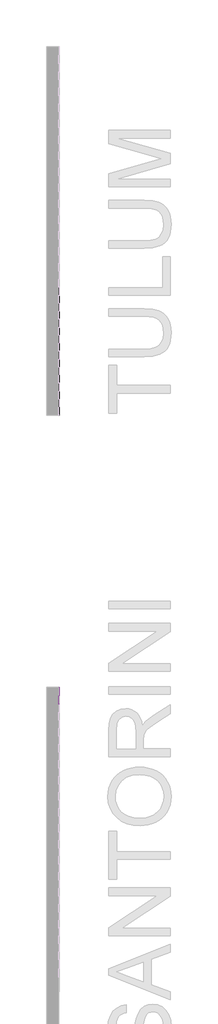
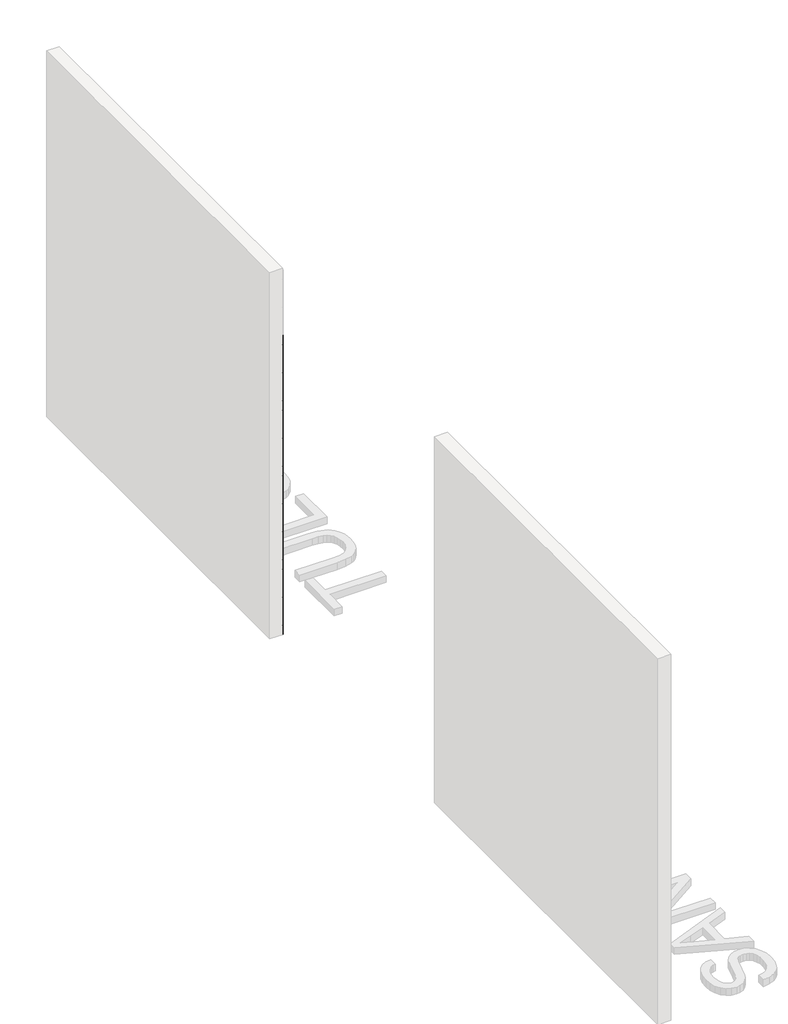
# One storey, part 33 of 45: 147 proxies.
"""IFC4 building model written with IfcOpenShell, lengths in millimetres."""

from ifc_helpers import new_model, si_unit, origin, place, context, project, spatial, transform, mapped, element, save
from components import generic_models_ab0f2c30, generic_models_1527efce

model = new_model("IFC4")

# Units and contexts
model_context = context("Model", 3, world=origin())
ifc_project = project(units=[si_unit("LENGTHUNIT", "METRE", prefix="MILLI")], contexts=[model_context])

# Site, building, storey
site = spatial("IfcSite", under=ifc_project)
building = spatial("IfcBuilding", under=site)
storey = spatial("IfcBuildingStorey", under=building, Name="PORTOBELLO - SHOWROOM", Elevation=0.0)

# Proxies
placement = place(None, origin())
generic_models_shape = generic_models_ab0f2c30(model_context)
element("IfcBuildingElementProxy", 1, Name="PBSHOP - HORIZONTES TULUM 6,5X23 : TULUM", ObjectType="PBSHOP - HORIZONTES TULUM 6,5X23 : TULUM", at=placement, inside=storey, context=model_context, shape_type="MappedRepresentation", body=[
    mapped(generic_models_shape, transform((69111.8826867, 15186.0588567, 34.5), x_axis=(0.0, 0.0, 1.0), y_axis=(0.0, -1.0, 0.0), z_axis=(1.0, 0.0, 0.0))),
])
element("IfcBuildingElementProxy", 2, Name="PBSHOP - HORIZONTES TULUM 6,5X23 : TULUM", ObjectType="PBSHOP - HORIZONTES TULUM 6,5X23 : TULUM", at=placement, inside=storey, context=model_context, shape_type="MappedRepresentation", body=[
    mapped(generic_models_shape, transform((69111.8826867, 15420.0588567, 34.5), x_axis=(0.0, 0.0, 1.0), y_axis=(0.0, -1.0, 0.0), z_axis=(1.0, 0.0, 0.0))),
])
element("IfcBuildingElementProxy", 3, Name="PBSHOP - HORIZONTES TULUM 6,5X23 : TULUM", ObjectType="PBSHOP - HORIZONTES TULUM 6,5X23 : TULUM", at=placement, inside=storey, context=model_context, shape_type="MappedRepresentation", body=[
    mapped(generic_models_shape, transform((69111.8826867, 15654.0588567, 34.5), x_axis=(0.0, 0.0, 1.0), y_axis=(0.0, -1.0, 0.0), z_axis=(1.0, 0.0, 0.0))),
])
element("IfcBuildingElementProxy", 4, Name="PBSHOP - HORIZONTES TULUM 6,5X23 : TULUM", ObjectType="PBSHOP - HORIZONTES TULUM 6,5X23 : TULUM", at=placement, inside=storey, context=model_context, shape_type="MappedRepresentation", body=[
    mapped(generic_models_shape, transform((69111.8826867, 15888.0588567, 34.5), x_axis=(0.0, 0.0, 1.0), y_axis=(0.0, -1.0, 0.0), z_axis=(1.0, 0.0, 0.0))),
])
element("IfcBuildingElementProxy", 5, Name="PBSHOP - HORIZONTES TULUM 6,5X23 : TULUM", ObjectType="PBSHOP - HORIZONTES TULUM 6,5X23 : TULUM", at=placement, inside=storey, context=model_context, shape_type="MappedRepresentation", body=[
    mapped(generic_models_shape, transform((69111.8826867, 15186.0588567, 103.5), x_axis=(0.0, 0.0, 1.0), y_axis=(0.0, -1.0, 0.0), z_axis=(1.0, 0.0, 0.0))),
])
element("IfcBuildingElementProxy", 6, Name="PBSHOP - HORIZONTES TULUM 6,5X23 : TULUM", ObjectType="PBSHOP - HORIZONTES TULUM 6,5X23 : TULUM", at=placement, inside=storey, context=model_context, shape_type="MappedRepresentation", body=[
    mapped(generic_models_shape, transform((69111.8826867, 15420.0588567, 103.5), x_axis=(0.0, 0.0, 1.0), y_axis=(0.0, -1.0, 0.0), z_axis=(1.0, 0.0, 0.0))),
])
element("IfcBuildingElementProxy", 7, Name="PBSHOP - HORIZONTES TULUM 6,5X23 : TULUM", ObjectType="PBSHOP - HORIZONTES TULUM 6,5X23 : TULUM", at=placement, inside=storey, context=model_context, shape_type="MappedRepresentation", body=[
    mapped(generic_models_shape, transform((69111.8826867, 15654.0588567, 103.5), x_axis=(0.0, 0.0, 1.0), y_axis=(0.0, -1.0, 0.0), z_axis=(1.0, 0.0, 0.0))),
])
element("IfcBuildingElementProxy", 8, Name="PBSHOP - HORIZONTES TULUM 6,5X23 : TULUM", ObjectType="PBSHOP - HORIZONTES TULUM 6,5X23 : TULUM", at=placement, inside=storey, context=model_context, shape_type="MappedRepresentation", body=[
    mapped(generic_models_shape, transform((69111.8826867, 15888.0588567, 103.5), x_axis=(0.0, 0.0, 1.0), y_axis=(0.0, -1.0, 0.0), z_axis=(1.0, 0.0, 0.0))),
])
element("IfcBuildingElementProxy", 9, Name="PBSHOP - HORIZONTES TULUM 6,5X23 : TULUM", ObjectType="PBSHOP - HORIZONTES TULUM 6,5X23 : TULUM", at=placement, inside=storey, context=model_context, shape_type="MappedRepresentation", body=[
    mapped(generic_models_shape, transform((69111.8826867, 15186.0588567, 172.5), x_axis=(0.0, 0.0, 1.0), y_axis=(0.0, -1.0, 0.0), z_axis=(1.0, 0.0, 0.0))),
])
element("IfcBuildingElementProxy", 10, Name="PBSHOP - HORIZONTES TULUM 6,5X23 : TULUM", ObjectType="PBSHOP - HORIZONTES TULUM 6,5X23 : TULUM", at=placement, inside=storey, context=model_context, shape_type="MappedRepresentation", body=[
    mapped(generic_models_shape, transform((69111.8826867, 15420.0588567, 172.5), x_axis=(0.0, 0.0, 1.0), y_axis=(0.0, -1.0, 0.0), z_axis=(1.0, 0.0, 0.0))),
])
element("IfcBuildingElementProxy", 11, Name="PBSHOP - HORIZONTES TULUM 6,5X23 : TULUM", ObjectType="PBSHOP - HORIZONTES TULUM 6,5X23 : TULUM", at=placement, inside=storey, context=model_context, shape_type="MappedRepresentation", body=[
    mapped(generic_models_shape, transform((69111.8826867, 15654.0588567, 172.5), x_axis=(0.0, 0.0, 1.0), y_axis=(0.0, -1.0, 0.0), z_axis=(1.0, 0.0, 0.0))),
])
element("IfcBuildingElementProxy", 12, Name="PBSHOP - HORIZONTES TULUM 6,5X23 : TULUM", ObjectType="PBSHOP - HORIZONTES TULUM 6,5X23 : TULUM", at=placement, inside=storey, context=model_context, shape_type="MappedRepresentation", body=[
    mapped(generic_models_shape, transform((69111.8826867, 15888.0588567, 172.5), x_axis=(0.0, 0.0, 1.0), y_axis=(0.0, -1.0, 0.0), z_axis=(1.0, 0.0, 0.0))),
])
element("IfcBuildingElementProxy", 13, Name="PBSHOP - HORIZONTES TULUM 6,5X23 : TULUM", ObjectType="PBSHOP - HORIZONTES TULUM 6,5X23 : TULUM", at=placement, inside=storey, context=model_context, shape_type="MappedRepresentation", body=[
    mapped(generic_models_shape, transform((69111.8826867, 15186.0588567, 241.5), x_axis=(0.0, 0.0, 1.0), y_axis=(0.0, -1.0, 0.0), z_axis=(1.0, 0.0, 0.0))),
])
element("IfcBuildingElementProxy", 14, Name="PBSHOP - HORIZONTES TULUM 6,5X23 : TULUM", ObjectType="PBSHOP - HORIZONTES TULUM 6,5X23 : TULUM", at=placement, inside=storey, context=model_context, shape_type="MappedRepresentation", body=[
    mapped(generic_models_shape, transform((69111.8826867, 15420.0588567, 241.5), x_axis=(0.0, 0.0, 1.0), y_axis=(0.0, -1.0, 0.0), z_axis=(1.0, 0.0, 0.0))),
])
element("IfcBuildingElementProxy", 15, Name="PBSHOP - HORIZONTES TULUM 6,5X23 : TULUM", ObjectType="PBSHOP - HORIZONTES TULUM 6,5X23 : TULUM", at=placement, inside=storey, context=model_context, shape_type="MappedRepresentation", body=[
    mapped(generic_models_shape, transform((69111.8826867, 15654.0588567, 241.5), x_axis=(0.0, 0.0, 1.0), y_axis=(0.0, -1.0, 0.0), z_axis=(1.0, 0.0, 0.0))),
])
element("IfcBuildingElementProxy", 16, Name="PBSHOP - HORIZONTES TULUM 6,5X23 : TULUM", ObjectType="PBSHOP - HORIZONTES TULUM 6,5X23 : TULUM", at=placement, inside=storey, context=model_context, shape_type="MappedRepresentation", body=[
    mapped(generic_models_shape, transform((69111.8826867, 15888.0588567, 241.5), x_axis=(0.0, 0.0, 1.0), y_axis=(0.0, -1.0, 0.0), z_axis=(1.0, 0.0, 0.0))),
])
element("IfcBuildingElementProxy", 17, Name="PBSHOP - HORIZONTES TULUM 6,5X23 : TULUM", ObjectType="PBSHOP - HORIZONTES TULUM 6,5X23 : TULUM", at=placement, inside=storey, context=model_context, shape_type="MappedRepresentation", body=[
    mapped(generic_models_shape, transform((69111.8826867, 15186.0588567, 310.5), x_axis=(0.0, 0.0, 1.0), y_axis=(0.0, -1.0, 0.0), z_axis=(1.0, 0.0, 0.0))),
])
element("IfcBuildingElementProxy", 18, Name="PBSHOP - HORIZONTES TULUM 6,5X23 : TULUM", ObjectType="PBSHOP - HORIZONTES TULUM 6,5X23 : TULUM", at=placement, inside=storey, context=model_context, shape_type="MappedRepresentation", body=[
    mapped(generic_models_shape, transform((69111.8826867, 15420.0588567, 310.5), x_axis=(0.0, 0.0, 1.0), y_axis=(0.0, -1.0, 0.0), z_axis=(1.0, 0.0, 0.0))),
])
element("IfcBuildingElementProxy", 19, Name="PBSHOP - HORIZONTES TULUM 6,5X23 : TULUM", ObjectType="PBSHOP - HORIZONTES TULUM 6,5X23 : TULUM", at=placement, inside=storey, context=model_context, shape_type="MappedRepresentation", body=[
    mapped(generic_models_shape, transform((69111.8826867, 15654.0588567, 310.5), x_axis=(0.0, 0.0, 1.0), y_axis=(0.0, -1.0, 0.0), z_axis=(1.0, 0.0, 0.0))),
])
element("IfcBuildingElementProxy", 20, Name="PBSHOP - HORIZONTES TULUM 6,5X23 : TULUM", ObjectType="PBSHOP - HORIZONTES TULUM 6,5X23 : TULUM", at=placement, inside=storey, context=model_context, shape_type="MappedRepresentation", body=[
    mapped(generic_models_shape, transform((69111.8826867, 15888.0588567, 310.5), x_axis=(0.0, 0.0, 1.0), y_axis=(0.0, -1.0, 0.0), z_axis=(1.0, 0.0, 0.0))),
])
element("IfcBuildingElementProxy", 21, Name="PBSHOP - HORIZONTES TULUM 6,5X23 : TULUM", ObjectType="PBSHOP - HORIZONTES TULUM 6,5X23 : TULUM", at=placement, inside=storey, context=model_context, shape_type="MappedRepresentation", body=[
    mapped(generic_models_shape, transform((69111.8826867, 15186.0588567, 379.5), x_axis=(0.0, 0.0, 1.0), y_axis=(0.0, -1.0, 0.0), z_axis=(1.0, 0.0, 0.0))),
])
element("IfcBuildingElementProxy", 22, Name="PBSHOP - HORIZONTES TULUM 6,5X23 : TULUM", ObjectType="PBSHOP - HORIZONTES TULUM 6,5X23 : TULUM", at=placement, inside=storey, context=model_context, shape_type="MappedRepresentation", body=[
    mapped(generic_models_shape, transform((69111.8826867, 15420.0588567, 379.5), x_axis=(0.0, 0.0, 1.0), y_axis=(0.0, -1.0, 0.0), z_axis=(1.0, 0.0, 0.0))),
])
element("IfcBuildingElementProxy", 23, Name="PBSHOP - HORIZONTES TULUM 6,5X23 : TULUM", ObjectType="PBSHOP - HORIZONTES TULUM 6,5X23 : TULUM", at=placement, inside=storey, context=model_context, shape_type="MappedRepresentation", body=[
    mapped(generic_models_shape, transform((69111.8826867, 15654.0588567, 379.5), x_axis=(0.0, 0.0, 1.0), y_axis=(0.0, -1.0, 0.0), z_axis=(1.0, 0.0, 0.0))),
])
element("IfcBuildingElementProxy", 24, Name="PBSHOP - HORIZONTES TULUM 6,5X23 : TULUM", ObjectType="PBSHOP - HORIZONTES TULUM 6,5X23 : TULUM", at=placement, inside=storey, context=model_context, shape_type="MappedRepresentation", body=[
    mapped(generic_models_shape, transform((69111.8826867, 15888.0588567, 379.5), x_axis=(0.0, 0.0, 1.0), y_axis=(0.0, -1.0, 0.0), z_axis=(1.0, 0.0, 0.0))),
])
element("IfcBuildingElementProxy", 25, Name="PBSHOP - HORIZONTES TULUM 6,5X23 : TULUM", ObjectType="PBSHOP - HORIZONTES TULUM 6,5X23 : TULUM", at=placement, inside=storey, context=model_context, shape_type="MappedRepresentation", body=[
    mapped(generic_models_shape, transform((69111.8826867, 15186.0588567, 448.5), x_axis=(0.0, 0.0, 1.0), y_axis=(0.0, -1.0, 0.0), z_axis=(1.0, 0.0, 0.0))),
])
element("IfcBuildingElementProxy", 26, Name="PBSHOP - HORIZONTES TULUM 6,5X23 : TULUM", ObjectType="PBSHOP - HORIZONTES TULUM 6,5X23 : TULUM", at=placement, inside=storey, context=model_context, shape_type="MappedRepresentation", body=[
    mapped(generic_models_shape, transform((69111.8826867, 15420.0588567, 448.5), x_axis=(0.0, 0.0, 1.0), y_axis=(0.0, -1.0, 0.0), z_axis=(1.0, 0.0, 0.0))),
])
element("IfcBuildingElementProxy", 27, Name="PBSHOP - HORIZONTES TULUM 6,5X23 : TULUM", ObjectType="PBSHOP - HORIZONTES TULUM 6,5X23 : TULUM", at=placement, inside=storey, context=model_context, shape_type="MappedRepresentation", body=[
    mapped(generic_models_shape, transform((69111.8826867, 15654.0588567, 448.5), x_axis=(0.0, 0.0, 1.0), y_axis=(0.0, -1.0, 0.0), z_axis=(1.0, 0.0, 0.0))),
])
element("IfcBuildingElementProxy", 28, Name="PBSHOP - HORIZONTES TULUM 6,5X23 : TULUM", ObjectType="PBSHOP - HORIZONTES TULUM 6,5X23 : TULUM", at=placement, inside=storey, context=model_context, shape_type="MappedRepresentation", body=[
    mapped(generic_models_shape, transform((69111.8826867, 15888.0588567, 448.5), x_axis=(0.0, 0.0, 1.0), y_axis=(0.0, -1.0, 0.0), z_axis=(1.0, 0.0, 0.0))),
])
element("IfcBuildingElementProxy", 29, Name="PBSHOP - HORIZONTES TULUM 6,5X23 : TULUM", ObjectType="PBSHOP - HORIZONTES TULUM 6,5X23 : TULUM", at=placement, inside=storey, context=model_context, shape_type="MappedRepresentation", body=[
    mapped(generic_models_shape, transform((69111.8826867, 15186.0588567, 517.5), x_axis=(0.0, 0.0, 1.0), y_axis=(0.0, -1.0, 0.0), z_axis=(1.0, 0.0, 0.0))),
])
element("IfcBuildingElementProxy", 30, Name="PBSHOP - HORIZONTES TULUM 6,5X23 : TULUM", ObjectType="PBSHOP - HORIZONTES TULUM 6,5X23 : TULUM", at=placement, inside=storey, context=model_context, shape_type="MappedRepresentation", body=[
    mapped(generic_models_shape, transform((69111.8826867, 15420.0588567, 517.5), x_axis=(0.0, 0.0, 1.0), y_axis=(0.0, -1.0, 0.0), z_axis=(1.0, 0.0, 0.0))),
])
element("IfcBuildingElementProxy", 31, Name="PBSHOP - HORIZONTES TULUM 6,5X23 : TULUM", ObjectType="PBSHOP - HORIZONTES TULUM 6,5X23 : TULUM", at=placement, inside=storey, context=model_context, shape_type="MappedRepresentation", body=[
    mapped(generic_models_shape, transform((69111.8826867, 15654.0588567, 517.5), x_axis=(0.0, 0.0, 1.0), y_axis=(0.0, -1.0, 0.0), z_axis=(1.0, 0.0, 0.0))),
])
element("IfcBuildingElementProxy", 32, Name="PBSHOP - HORIZONTES TULUM 6,5X23 : TULUM", ObjectType="PBSHOP - HORIZONTES TULUM 6,5X23 : TULUM", at=placement, inside=storey, context=model_context, shape_type="MappedRepresentation", body=[
    mapped(generic_models_shape, transform((69111.8826867, 15888.0588567, 517.5), x_axis=(0.0, 0.0, 1.0), y_axis=(0.0, -1.0, 0.0), z_axis=(1.0, 0.0, 0.0))),
])
element("IfcBuildingElementProxy", 33, Name="PBSHOP - HORIZONTES TULUM 6,5X23 : TULUM", ObjectType="PBSHOP - HORIZONTES TULUM 6,5X23 : TULUM", at=placement, inside=storey, context=model_context, shape_type="MappedRepresentation", body=[
    mapped(generic_models_shape, transform((69111.8826867, 15186.0588567, 586.5), x_axis=(0.0, 0.0, 1.0), y_axis=(0.0, -1.0, 0.0), z_axis=(1.0, 0.0, 0.0))),
])
element("IfcBuildingElementProxy", 34, Name="PBSHOP - HORIZONTES TULUM 6,5X23 : TULUM", ObjectType="PBSHOP - HORIZONTES TULUM 6,5X23 : TULUM", at=placement, inside=storey, context=model_context, shape_type="MappedRepresentation", body=[
    mapped(generic_models_shape, transform((69111.8826867, 15420.0588567, 586.5), x_axis=(0.0, 0.0, 1.0), y_axis=(0.0, -1.0, 0.0), z_axis=(1.0, 0.0, 0.0))),
])
element("IfcBuildingElementProxy", 35, Name="PBSHOP - HORIZONTES TULUM 6,5X23 : TULUM", ObjectType="PBSHOP - HORIZONTES TULUM 6,5X23 : TULUM", at=placement, inside=storey, context=model_context, shape_type="MappedRepresentation", body=[
    mapped(generic_models_shape, transform((69111.8826867, 15654.0588567, 586.5), x_axis=(0.0, 0.0, 1.0), y_axis=(0.0, -1.0, 0.0), z_axis=(1.0, 0.0, 0.0))),
])
element("IfcBuildingElementProxy", 36, Name="PBSHOP - HORIZONTES TULUM 6,5X23 : TULUM", ObjectType="PBSHOP - HORIZONTES TULUM 6,5X23 : TULUM", at=placement, inside=storey, context=model_context, shape_type="MappedRepresentation", body=[
    mapped(generic_models_shape, transform((69111.8826867, 15888.0588567, 586.5), x_axis=(0.0, 0.0, 1.0), y_axis=(0.0, -1.0, 0.0), z_axis=(1.0, 0.0, 0.0))),
])
element("IfcBuildingElementProxy", 37, Name="PBSHOP - HORIZONTES TULUM 6,5X23 : TULUM", ObjectType="PBSHOP - HORIZONTES TULUM 6,5X23 : TULUM", at=placement, inside=storey, context=model_context, shape_type="MappedRepresentation", body=[
    mapped(generic_models_shape, transform((69111.8826867, 15186.0588567, 655.5), x_axis=(0.0, 0.0, 1.0), y_axis=(0.0, -1.0, 0.0), z_axis=(1.0, 0.0, 0.0))),
])
element("IfcBuildingElementProxy", 38, Name="PBSHOP - HORIZONTES TULUM 6,5X23 : TULUM", ObjectType="PBSHOP - HORIZONTES TULUM 6,5X23 : TULUM", at=placement, inside=storey, context=model_context, shape_type="MappedRepresentation", body=[
    mapped(generic_models_shape, transform((69111.8826867, 15420.0588567, 655.5), x_axis=(0.0, 0.0, 1.0), y_axis=(0.0, -1.0, 0.0), z_axis=(1.0, 0.0, 0.0))),
])
element("IfcBuildingElementProxy", 39, Name="PBSHOP - HORIZONTES TULUM 6,5X23 : TULUM", ObjectType="PBSHOP - HORIZONTES TULUM 6,5X23 : TULUM", at=placement, inside=storey, context=model_context, shape_type="MappedRepresentation", body=[
    mapped(generic_models_shape, transform((69111.8826867, 15654.0588567, 655.5), x_axis=(0.0, 0.0, 1.0), y_axis=(0.0, -1.0, 0.0), z_axis=(1.0, 0.0, 0.0))),
])
element("IfcBuildingElementProxy", 40, Name="PBSHOP - HORIZONTES TULUM 6,5X23 : TULUM", ObjectType="PBSHOP - HORIZONTES TULUM 6,5X23 : TULUM", at=placement, inside=storey, context=model_context, shape_type="MappedRepresentation", body=[
    mapped(generic_models_shape, transform((69111.8826867, 15888.0588567, 655.5), x_axis=(0.0, 0.0, 1.0), y_axis=(0.0, -1.0, 0.0), z_axis=(1.0, 0.0, 0.0))),
])
element("IfcBuildingElementProxy", 41, Name="PBSHOP - HORIZONTES TULUM 6,5X23 : TULUM", ObjectType="PBSHOP - HORIZONTES TULUM 6,5X23 : TULUM", at=placement, inside=storey, context=model_context, shape_type="MappedRepresentation", body=[
    mapped(generic_models_shape, transform((69111.8826867, 15186.0588567, 724.5), x_axis=(0.0, 0.0, 1.0), y_axis=(0.0, -1.0, 0.0), z_axis=(1.0, 0.0, 0.0))),
])
element("IfcBuildingElementProxy", 42, Name="PBSHOP - HORIZONTES TULUM 6,5X23 : TULUM", ObjectType="PBSHOP - HORIZONTES TULUM 6,5X23 : TULUM", at=placement, inside=storey, context=model_context, shape_type="MappedRepresentation", body=[
    mapped(generic_models_shape, transform((69111.8826867, 15420.0588567, 724.5), x_axis=(0.0, 0.0, 1.0), y_axis=(0.0, -1.0, 0.0), z_axis=(1.0, 0.0, 0.0))),
])
element("IfcBuildingElementProxy", 43, Name="PBSHOP - HORIZONTES TULUM 6,5X23 : TULUM", ObjectType="PBSHOP - HORIZONTES TULUM 6,5X23 : TULUM", at=placement, inside=storey, context=model_context, shape_type="MappedRepresentation", body=[
    mapped(generic_models_shape, transform((69111.8826867, 15654.0588567, 724.5), x_axis=(0.0, 0.0, 1.0), y_axis=(0.0, -1.0, 0.0), z_axis=(1.0, 0.0, 0.0))),
])
element("IfcBuildingElementProxy", 44, Name="PBSHOP - HORIZONTES TULUM 6,5X23 : TULUM", ObjectType="PBSHOP - HORIZONTES TULUM 6,5X23 : TULUM", at=placement, inside=storey, context=model_context, shape_type="MappedRepresentation", body=[
    mapped(generic_models_shape, transform((69111.8826867, 15888.0588567, 724.5), x_axis=(0.0, 0.0, 1.0), y_axis=(0.0, -1.0, 0.0), z_axis=(1.0, 0.0, 0.0))),
])
element("IfcBuildingElementProxy", 45, Name="PBSHOP - HORIZONTES TULUM 6,5X23 : TULUM", ObjectType="PBSHOP - HORIZONTES TULUM 6,5X23 : TULUM", at=placement, inside=storey, context=model_context, shape_type="MappedRepresentation", body=[
    mapped(generic_models_shape, transform((69111.8826867, 15186.0588567, 793.5), x_axis=(0.0, 0.0, 1.0), y_axis=(0.0, -1.0, 0.0), z_axis=(1.0, 0.0, 0.0))),
])
element("IfcBuildingElementProxy", 46, Name="PBSHOP - HORIZONTES TULUM 6,5X23 : TULUM", ObjectType="PBSHOP - HORIZONTES TULUM 6,5X23 : TULUM", at=placement, inside=storey, context=model_context, shape_type="MappedRepresentation", body=[
    mapped(generic_models_shape, transform((69111.8826867, 15420.0588567, 793.5), x_axis=(0.0, 0.0, 1.0), y_axis=(0.0, -1.0, 0.0), z_axis=(1.0, 0.0, 0.0))),
])
element("IfcBuildingElementProxy", 47, Name="PBSHOP - HORIZONTES TULUM 6,5X23 : TULUM", ObjectType="PBSHOP - HORIZONTES TULUM 6,5X23 : TULUM", at=placement, inside=storey, context=model_context, shape_type="MappedRepresentation", body=[
    mapped(generic_models_shape, transform((69111.8826867, 15654.0588567, 793.5), x_axis=(0.0, 0.0, 1.0), y_axis=(0.0, -1.0, 0.0), z_axis=(1.0, 0.0, 0.0))),
])
element("IfcBuildingElementProxy", 48, Name="PBSHOP - HORIZONTES TULUM 6,5X23 : TULUM", ObjectType="PBSHOP - HORIZONTES TULUM 6,5X23 : TULUM", at=placement, inside=storey, context=model_context, shape_type="MappedRepresentation", body=[
    mapped(generic_models_shape, transform((69111.8826867, 15888.0588567, 793.5), x_axis=(0.0, 0.0, 1.0), y_axis=(0.0, -1.0, 0.0), z_axis=(1.0, 0.0, 0.0))),
])
element("IfcBuildingElementProxy", 49, Name="PBSHOP - HORIZONTES TULUM 6,5X23 : TULUM", ObjectType="PBSHOP - HORIZONTES TULUM 6,5X23 : TULUM", at=placement, inside=storey, context=model_context, shape_type="MappedRepresentation", body=[
    mapped(generic_models_shape, transform((69111.8826867, 15186.0588567, 862.5), x_axis=(0.0, 0.0, 1.0), y_axis=(0.0, -1.0, 0.0), z_axis=(1.0, 0.0, 0.0))),
])
element("IfcBuildingElementProxy", 50, Name="PBSHOP - HORIZONTES TULUM 6,5X23 : TULUM", ObjectType="PBSHOP - HORIZONTES TULUM 6,5X23 : TULUM", at=placement, inside=storey, context=model_context, shape_type="MappedRepresentation", body=[
    mapped(generic_models_shape, transform((69111.8826867, 15420.0588567, 862.5), x_axis=(0.0, 0.0, 1.0), y_axis=(0.0, -1.0, 0.0), z_axis=(1.0, 0.0, 0.0))),
])
element("IfcBuildingElementProxy", 51, Name="PBSHOP - HORIZONTES TULUM 6,5X23 : TULUM", ObjectType="PBSHOP - HORIZONTES TULUM 6,5X23 : TULUM", at=placement, inside=storey, context=model_context, shape_type="MappedRepresentation", body=[
    mapped(generic_models_shape, transform((69111.8826867, 15654.0588567, 862.5), x_axis=(0.0, 0.0, 1.0), y_axis=(0.0, -1.0, 0.0), z_axis=(1.0, 0.0, 0.0))),
])
element("IfcBuildingElementProxy", 52, Name="PBSHOP - HORIZONTES TULUM 6,5X23 : TULUM", ObjectType="PBSHOP - HORIZONTES TULUM 6,5X23 : TULUM", at=placement, inside=storey, context=model_context, shape_type="MappedRepresentation", body=[
    mapped(generic_models_shape, transform((69111.8826867, 15888.0588567, 862.5), x_axis=(0.0, 0.0, 1.0), y_axis=(0.0, -1.0, 0.0), z_axis=(1.0, 0.0, 0.0))),
])
element("IfcBuildingElementProxy", 53, Name="PBSHOP - HORIZONTES TULUM 6,5X23 : TULUM", ObjectType="PBSHOP - HORIZONTES TULUM 6,5X23 : TULUM", at=placement, inside=storey, context=model_context, shape_type="MappedRepresentation", body=[
    mapped(generic_models_shape, transform((69111.8826867, 15186.0588567, 931.5), x_axis=(0.0, 0.0, 1.0), y_axis=(0.0, -1.0, 0.0), z_axis=(1.0, 0.0, 0.0))),
])
element("IfcBuildingElementProxy", 54, Name="PBSHOP - HORIZONTES TULUM 6,5X23 : TULUM", ObjectType="PBSHOP - HORIZONTES TULUM 6,5X23 : TULUM", at=placement, inside=storey, context=model_context, shape_type="MappedRepresentation", body=[
    mapped(generic_models_shape, transform((69111.8826867, 15420.0588567, 931.5), x_axis=(0.0, 0.0, 1.0), y_axis=(0.0, -1.0, 0.0), z_axis=(1.0, 0.0, 0.0))),
])
element("IfcBuildingElementProxy", 55, Name="PBSHOP - HORIZONTES TULUM 6,5X23 : TULUM", ObjectType="PBSHOP - HORIZONTES TULUM 6,5X23 : TULUM", at=placement, inside=storey, context=model_context, shape_type="MappedRepresentation", body=[
    mapped(generic_models_shape, transform((69111.8826867, 15654.0588567, 931.5), x_axis=(0.0, 0.0, 1.0), y_axis=(0.0, -1.0, 0.0), z_axis=(1.0, 0.0, 0.0))),
])
element("IfcBuildingElementProxy", 56, Name="PBSHOP - HORIZONTES TULUM 6,5X23 : TULUM", ObjectType="PBSHOP - HORIZONTES TULUM 6,5X23 : TULUM", at=placement, inside=storey, context=model_context, shape_type="MappedRepresentation", body=[
    mapped(generic_models_shape, transform((69111.8826867, 15888.0588567, 931.5), x_axis=(0.0, 0.0, 1.0), y_axis=(0.0, -1.0, 0.0), z_axis=(1.0, 0.0, 0.0))),
])
element("IfcBuildingElementProxy", 57, Name="PBSHOP - HORIZONTES TULUM 6,5X23 : TULUM", ObjectType="PBSHOP - HORIZONTES TULUM 6,5X23 : TULUM", at=placement, inside=storey, context=model_context, shape_type="MappedRepresentation", body=[
    mapped(generic_models_shape, transform((69111.8826867, 15186.0588567, 1000.5), x_axis=(0.0, 0.0, 1.0), y_axis=(0.0, -1.0, 0.0), z_axis=(1.0, 0.0, 0.0))),
])
element("IfcBuildingElementProxy", 58, Name="PBSHOP - HORIZONTES TULUM 6,5X23 : TULUM", ObjectType="PBSHOP - HORIZONTES TULUM 6,5X23 : TULUM", at=placement, inside=storey, context=model_context, shape_type="MappedRepresentation", body=[
    mapped(generic_models_shape, transform((69111.8826867, 15420.0588567, 1000.5), x_axis=(0.0, 0.0, 1.0), y_axis=(0.0, -1.0, 0.0), z_axis=(1.0, 0.0, 0.0))),
])
element("IfcBuildingElementProxy", 59, Name="PBSHOP - HORIZONTES TULUM 6,5X23 : TULUM", ObjectType="PBSHOP - HORIZONTES TULUM 6,5X23 : TULUM", at=placement, inside=storey, context=model_context, shape_type="MappedRepresentation", body=[
    mapped(generic_models_shape, transform((69111.8826867, 15654.0588567, 1000.5), x_axis=(0.0, 0.0, 1.0), y_axis=(0.0, -1.0, 0.0), z_axis=(1.0, 0.0, 0.0))),
])
element("IfcBuildingElementProxy", 60, Name="PBSHOP - HORIZONTES TULUM 6,5X23 : TULUM", ObjectType="PBSHOP - HORIZONTES TULUM 6,5X23 : TULUM", at=placement, inside=storey, context=model_context, shape_type="MappedRepresentation", body=[
    mapped(generic_models_shape, transform((69111.8826867, 15888.0588567, 1000.5), x_axis=(0.0, 0.0, 1.0), y_axis=(0.0, -1.0, 0.0), z_axis=(1.0, 0.0, 0.0))),
])
element("IfcBuildingElementProxy", 61, Name="PBSHOP - HORIZONTES TULUM 6,5X23 : TULUM", ObjectType="PBSHOP - HORIZONTES TULUM 6,5X23 : TULUM", at=placement, inside=storey, context=model_context, shape_type="MappedRepresentation", body=[
    mapped(generic_models_shape, transform((69111.8826867, 15186.0588567, 1069.5), x_axis=(0.0, 0.0, 1.0), y_axis=(0.0, -1.0, 0.0), z_axis=(1.0, 0.0, 0.0))),
])
element("IfcBuildingElementProxy", 62, Name="PBSHOP - HORIZONTES TULUM 6,5X23 : TULUM", ObjectType="PBSHOP - HORIZONTES TULUM 6,5X23 : TULUM", at=placement, inside=storey, context=model_context, shape_type="MappedRepresentation", body=[
    mapped(generic_models_shape, transform((69111.8826867, 15420.0588567, 1069.5), x_axis=(0.0, 0.0, 1.0), y_axis=(0.0, -1.0, 0.0), z_axis=(1.0, 0.0, 0.0))),
])
element("IfcBuildingElementProxy", 63, Name="PBSHOP - HORIZONTES TULUM 6,5X23 : TULUM", ObjectType="PBSHOP - HORIZONTES TULUM 6,5X23 : TULUM", at=placement, inside=storey, context=model_context, shape_type="MappedRepresentation", body=[
    mapped(generic_models_shape, transform((69111.8826867, 15654.0588567, 1069.5), x_axis=(0.0, 0.0, 1.0), y_axis=(0.0, -1.0, 0.0), z_axis=(1.0, 0.0, 0.0))),
])
element("IfcBuildingElementProxy", 64, Name="PBSHOP - HORIZONTES TULUM 6,5X23 : TULUM", ObjectType="PBSHOP - HORIZONTES TULUM 6,5X23 : TULUM", at=placement, inside=storey, context=model_context, shape_type="MappedRepresentation", body=[
    mapped(generic_models_shape, transform((69111.8826867, 15888.0588567, 1069.5), x_axis=(0.0, 0.0, 1.0), y_axis=(0.0, -1.0, 0.0), z_axis=(1.0, 0.0, 0.0))),
])
element("IfcBuildingElementProxy", 65, Name="PBSHOP - HORIZONTES TULUM 6,5X23 : TULUM", ObjectType="PBSHOP - HORIZONTES TULUM 6,5X23 : TULUM", at=placement, inside=storey, context=model_context, shape_type="MappedRepresentation", body=[
    mapped(generic_models_shape, transform((69111.8826867, 15186.0588567, 1138.5), x_axis=(0.0, 0.0, 1.0), y_axis=(0.0, -1.0, 0.0), z_axis=(1.0, 0.0, 0.0))),
])
element("IfcBuildingElementProxy", 66, Name="PBSHOP - HORIZONTES TULUM 6,5X23 : TULUM", ObjectType="PBSHOP - HORIZONTES TULUM 6,5X23 : TULUM", at=placement, inside=storey, context=model_context, shape_type="MappedRepresentation", body=[
    mapped(generic_models_shape, transform((69111.8826867, 15420.0588567, 1138.5), x_axis=(0.0, 0.0, 1.0), y_axis=(0.0, -1.0, 0.0), z_axis=(1.0, 0.0, 0.0))),
])
element("IfcBuildingElementProxy", 67, Name="PBSHOP - HORIZONTES TULUM 6,5X23 : TULUM", ObjectType="PBSHOP - HORIZONTES TULUM 6,5X23 : TULUM", at=placement, inside=storey, context=model_context, shape_type="MappedRepresentation", body=[
    mapped(generic_models_shape, transform((69111.8826867, 15654.0588567, 1138.5), x_axis=(0.0, 0.0, 1.0), y_axis=(0.0, -1.0, 0.0), z_axis=(1.0, 0.0, 0.0))),
])
element("IfcBuildingElementProxy", 68, Name="PBSHOP - HORIZONTES TULUM 6,5X23 : TULUM", ObjectType="PBSHOP - HORIZONTES TULUM 6,5X23 : TULUM", at=placement, inside=storey, context=model_context, shape_type="MappedRepresentation", body=[
    mapped(generic_models_shape, transform((69111.8826867, 15888.0588567, 1138.5), x_axis=(0.0, 0.0, 1.0), y_axis=(0.0, -1.0, 0.0), z_axis=(1.0, 0.0, 0.0))),
])
element("IfcBuildingElementProxy", 69, Name="PBSHOP - HORIZONTES TULUM 6,5X23 : TULUM", ObjectType="PBSHOP - HORIZONTES TULUM 6,5X23 : TULUM", at=placement, inside=storey, context=model_context, shape_type="MappedRepresentation", body=[
    mapped(generic_models_shape, transform((69111.8826867, 15186.0588567, 1207.5), x_axis=(0.0, 0.0, 1.0), y_axis=(0.0, -1.0, 0.0), z_axis=(1.0, 0.0, 0.0))),
])
element("IfcBuildingElementProxy", 70, Name="PBSHOP - HORIZONTES TULUM 6,5X23 : TULUM", ObjectType="PBSHOP - HORIZONTES TULUM 6,5X23 : TULUM", at=placement, inside=storey, context=model_context, shape_type="MappedRepresentation", body=[
    mapped(generic_models_shape, transform((69111.8826867, 15420.0588567, 1207.5), x_axis=(0.0, 0.0, 1.0), y_axis=(0.0, -1.0, 0.0), z_axis=(1.0, 0.0, 0.0))),
])
element("IfcBuildingElementProxy", 71, Name="PBSHOP - HORIZONTES TULUM 6,5X23 : TULUM", ObjectType="PBSHOP - HORIZONTES TULUM 6,5X23 : TULUM", at=placement, inside=storey, context=model_context, shape_type="MappedRepresentation", body=[
    mapped(generic_models_shape, transform((69111.8826867, 15654.0588567, 1207.5), x_axis=(0.0, 0.0, 1.0), y_axis=(0.0, -1.0, 0.0), z_axis=(1.0, 0.0, 0.0))),
])
element("IfcBuildingElementProxy", 72, Name="PBSHOP - HORIZONTES TULUM 6,5X23 : TULUM", ObjectType="PBSHOP - HORIZONTES TULUM 6,5X23 : TULUM", at=placement, inside=storey, context=model_context, shape_type="MappedRepresentation", body=[
    mapped(generic_models_shape, transform((69111.8826867, 15888.0588567, 1207.5), x_axis=(0.0, 0.0, 1.0), y_axis=(0.0, -1.0, 0.0), z_axis=(1.0, 0.0, 0.0))),
])
element("IfcBuildingElementProxy", 73, Name="PBSHOP - HORIZONTES TULUM 6,5X23 : TULUM", ObjectType="PBSHOP - HORIZONTES TULUM 6,5X23 : TULUM", at=placement, inside=storey, context=model_context, shape_type="MappedRepresentation", body=[
    mapped(generic_models_shape, transform((69111.8826867, 15186.0588567, 1276.5), x_axis=(0.0, 0.0, 1.0), y_axis=(0.0, -1.0, 0.0), z_axis=(1.0, 0.0, 0.0))),
])
element("IfcBuildingElementProxy", 74, Name="PBSHOP - HORIZONTES TULUM 6,5X23 : TULUM", ObjectType="PBSHOP - HORIZONTES TULUM 6,5X23 : TULUM", at=placement, inside=storey, context=model_context, shape_type="MappedRepresentation", body=[
    mapped(generic_models_shape, transform((69111.8826867, 15420.0588567, 1276.5), x_axis=(0.0, 0.0, 1.0), y_axis=(0.0, -1.0, 0.0), z_axis=(1.0, 0.0, 0.0))),
])
element("IfcBuildingElementProxy", 75, Name="PBSHOP - HORIZONTES TULUM 6,5X23 : TULUM", ObjectType="PBSHOP - HORIZONTES TULUM 6,5X23 : TULUM", at=placement, inside=storey, context=model_context, shape_type="MappedRepresentation", body=[
    mapped(generic_models_shape, transform((69111.8826867, 15654.0588567, 1276.5), x_axis=(0.0, 0.0, 1.0), y_axis=(0.0, -1.0, 0.0), z_axis=(1.0, 0.0, 0.0))),
])
element("IfcBuildingElementProxy", 76, Name="PBSHOP - HORIZONTES TULUM 6,5X23 : TULUM", ObjectType="PBSHOP - HORIZONTES TULUM 6,5X23 : TULUM", at=placement, inside=storey, context=model_context, shape_type="MappedRepresentation", body=[
    mapped(generic_models_shape, transform((69111.8826867, 15888.0588567, 1276.5), x_axis=(0.0, 0.0, 1.0), y_axis=(0.0, -1.0, 0.0), z_axis=(1.0, 0.0, 0.0))),
])
element("IfcBuildingElementProxy", 77, Name="PBSHOP - HORIZONTES TULUM 6,5X23 : TULUM", ObjectType="PBSHOP - HORIZONTES TULUM 6,5X23 : TULUM", at=placement, inside=storey, context=model_context, shape_type="MappedRepresentation", body=[
    mapped(generic_models_shape, transform((69111.8826867, 15186.0588567, 1345.5), x_axis=(0.0, 0.0, 1.0), y_axis=(0.0, -1.0, 0.0), z_axis=(1.0, 0.0, 0.0))),
])
element("IfcBuildingElementProxy", 78, Name="PBSHOP - HORIZONTES TULUM 6,5X23 : TULUM", ObjectType="PBSHOP - HORIZONTES TULUM 6,5X23 : TULUM", at=placement, inside=storey, context=model_context, shape_type="MappedRepresentation", body=[
    mapped(generic_models_shape, transform((69111.8826867, 15420.0588567, 1345.5), x_axis=(0.0, 0.0, 1.0), y_axis=(0.0, -1.0, 0.0), z_axis=(1.0, 0.0, 0.0))),
])
element("IfcBuildingElementProxy", 79, Name="PBSHOP - HORIZONTES TULUM 6,5X23 : TULUM", ObjectType="PBSHOP - HORIZONTES TULUM 6,5X23 : TULUM", at=placement, inside=storey, context=model_context, shape_type="MappedRepresentation", body=[
    mapped(generic_models_shape, transform((69111.8826867, 15654.0588567, 1345.5), x_axis=(0.0, 0.0, 1.0), y_axis=(0.0, -1.0, 0.0), z_axis=(1.0, 0.0, 0.0))),
])
element("IfcBuildingElementProxy", 80, Name="PBSHOP - HORIZONTES TULUM 6,5X23 : TULUM", ObjectType="PBSHOP - HORIZONTES TULUM 6,5X23 : TULUM", at=placement, inside=storey, context=model_context, shape_type="MappedRepresentation", body=[
    mapped(generic_models_shape, transform((69111.8826867, 15888.0588567, 1345.5), x_axis=(0.0, 0.0, 1.0), y_axis=(0.0, -1.0, 0.0), z_axis=(1.0, 0.0, 0.0))),
])
element("IfcBuildingElementProxy", 81, Name="PBSHOP - HORIZONTES TULUM 6,5X23 : TULUM", ObjectType="PBSHOP - HORIZONTES TULUM 6,5X23 : TULUM", at=placement, inside=storey, context=model_context, shape_type="MappedRepresentation", body=[
    mapped(generic_models_shape, transform((69111.8826867, 15186.0588567, 1414.5), x_axis=(0.0, 0.0, 1.0), y_axis=(0.0, -1.0, 0.0), z_axis=(1.0, 0.0, 0.0))),
])
element("IfcBuildingElementProxy", 82, Name="PBSHOP - HORIZONTES TULUM 6,5X23 : TULUM", ObjectType="PBSHOP - HORIZONTES TULUM 6,5X23 : TULUM", at=placement, inside=storey, context=model_context, shape_type="MappedRepresentation", body=[
    mapped(generic_models_shape, transform((69111.8826867, 15420.0588567, 1414.5), x_axis=(0.0, 0.0, 1.0), y_axis=(0.0, -1.0, 0.0), z_axis=(1.0, 0.0, 0.0))),
])
element("IfcBuildingElementProxy", 83, Name="PBSHOP - HORIZONTES TULUM 6,5X23 : TULUM", ObjectType="PBSHOP - HORIZONTES TULUM 6,5X23 : TULUM", at=placement, inside=storey, context=model_context, shape_type="MappedRepresentation", body=[
    mapped(generic_models_shape, transform((69111.8826867, 15654.0588567, 1414.5), x_axis=(0.0, 0.0, 1.0), y_axis=(0.0, -1.0, 0.0), z_axis=(1.0, 0.0, 0.0))),
])
element("IfcBuildingElementProxy", 84, Name="PBSHOP - HORIZONTES TULUM 6,5X23 : TULUM", ObjectType="PBSHOP - HORIZONTES TULUM 6,5X23 : TULUM", at=placement, inside=storey, context=model_context, shape_type="MappedRepresentation", body=[
    mapped(generic_models_shape, transform((69111.8826867, 15888.0588567, 1414.5), x_axis=(0.0, 0.0, 1.0), y_axis=(0.0, -1.0, 0.0), z_axis=(1.0, 0.0, 0.0))),
])
element("IfcBuildingElementProxy", 85, Name="PBSHOP - HORIZONTES TULUM 6,5X23 : TULUM", ObjectType="PBSHOP - HORIZONTES TULUM 6,5X23 : TULUM", at=placement, inside=storey, context=model_context, shape_type="MappedRepresentation", body=[
    mapped(generic_models_shape, transform((69111.8826867, 15186.0588567, 1483.5), x_axis=(0.0, 0.0, 1.0), y_axis=(0.0, -1.0, 0.0), z_axis=(1.0, 0.0, 0.0))),
])
element("IfcBuildingElementProxy", 86, Name="PBSHOP - HORIZONTES TULUM 6,5X23 : TULUM", ObjectType="PBSHOP - HORIZONTES TULUM 6,5X23 : TULUM", at=placement, inside=storey, context=model_context, shape_type="MappedRepresentation", body=[
    mapped(generic_models_shape, transform((69111.8826867, 15420.0588567, 1483.5), x_axis=(0.0, 0.0, 1.0), y_axis=(0.0, -1.0, 0.0), z_axis=(1.0, 0.0, 0.0))),
])
element("IfcBuildingElementProxy", 87, Name="PBSHOP - HORIZONTES TULUM 6,5X23 : TULUM", ObjectType="PBSHOP - HORIZONTES TULUM 6,5X23 : TULUM", at=placement, inside=storey, context=model_context, shape_type="MappedRepresentation", body=[
    mapped(generic_models_shape, transform((69111.8826867, 15654.0588567, 1483.5), x_axis=(0.0, 0.0, 1.0), y_axis=(0.0, -1.0, 0.0), z_axis=(1.0, 0.0, 0.0))),
])
element("IfcBuildingElementProxy", 88, Name="PBSHOP - HORIZONTES TULUM 6,5X23 : TULUM", ObjectType="PBSHOP - HORIZONTES TULUM 6,5X23 : TULUM", at=placement, inside=storey, context=model_context, shape_type="MappedRepresentation", body=[
    mapped(generic_models_shape, transform((69111.8826867, 15888.0588567, 1483.5), x_axis=(0.0, 0.0, 1.0), y_axis=(0.0, -1.0, 0.0), z_axis=(1.0, 0.0, 0.0))),
])
element("IfcBuildingElementProxy", 89, Name="PBSHOP - HORIZONTES TULUM 6,5X23 : TULUM", ObjectType="PBSHOP - HORIZONTES TULUM 6,5X23 : TULUM", at=placement, inside=storey, context=model_context, shape_type="MappedRepresentation", body=[
    mapped(generic_models_shape, transform((69111.8826867, 15186.0588567, 1552.5), x_axis=(0.0, 0.0, 1.0), y_axis=(0.0, -1.0, 0.0), z_axis=(1.0, 0.0, 0.0))),
])
element("IfcBuildingElementProxy", 90, Name="PBSHOP - HORIZONTES TULUM 6,5X23 : TULUM", ObjectType="PBSHOP - HORIZONTES TULUM 6,5X23 : TULUM", at=placement, inside=storey, context=model_context, shape_type="MappedRepresentation", body=[
    mapped(generic_models_shape, transform((69111.8826867, 15420.0588567, 1552.5), x_axis=(0.0, 0.0, 1.0), y_axis=(0.0, -1.0, 0.0), z_axis=(1.0, 0.0, 0.0))),
])
element("IfcBuildingElementProxy", 91, Name="PBSHOP - HORIZONTES TULUM 6,5X23 : TULUM", ObjectType="PBSHOP - HORIZONTES TULUM 6,5X23 : TULUM", at=placement, inside=storey, context=model_context, shape_type="MappedRepresentation", body=[
    mapped(generic_models_shape, transform((69111.8826867, 15654.0588567, 1552.5), x_axis=(0.0, 0.0, 1.0), y_axis=(0.0, -1.0, 0.0), z_axis=(1.0, 0.0, 0.0))),
])
element("IfcBuildingElementProxy", 92, Name="PBSHOP - HORIZONTES TULUM 6,5X23 : TULUM", ObjectType="PBSHOP - HORIZONTES TULUM 6,5X23 : TULUM", at=placement, inside=storey, context=model_context, shape_type="MappedRepresentation", body=[
    mapped(generic_models_shape, transform((69111.8826867, 15888.0588567, 1552.5), x_axis=(0.0, 0.0, 1.0), y_axis=(0.0, -1.0, 0.0), z_axis=(1.0, 0.0, 0.0))),
])
element("IfcBuildingElementProxy", 93, Name="PBSHOP - HORIZONTES TULUM 6,5X23 : TULUM", ObjectType="PBSHOP - HORIZONTES TULUM 6,5X23 : TULUM", at=placement, inside=storey, context=model_context, shape_type="MappedRepresentation", body=[
    mapped(generic_models_shape, transform((69111.8826867, 15186.0588567, 1621.5), x_axis=(0.0, 0.0, 1.0), y_axis=(0.0, -1.0, 0.0), z_axis=(1.0, 0.0, 0.0))),
])
element("IfcBuildingElementProxy", 94, Name="PBSHOP - HORIZONTES TULUM 6,5X23 : TULUM", ObjectType="PBSHOP - HORIZONTES TULUM 6,5X23 : TULUM", at=placement, inside=storey, context=model_context, shape_type="MappedRepresentation", body=[
    mapped(generic_models_shape, transform((69111.8826867, 15420.0588567, 1621.5), x_axis=(0.0, 0.0, 1.0), y_axis=(0.0, -1.0, 0.0), z_axis=(1.0, 0.0, 0.0))),
])
element("IfcBuildingElementProxy", 95, Name="PBSHOP - HORIZONTES TULUM 6,5X23 : TULUM", ObjectType="PBSHOP - HORIZONTES TULUM 6,5X23 : TULUM", at=placement, inside=storey, context=model_context, shape_type="MappedRepresentation", body=[
    mapped(generic_models_shape, transform((69111.8826867, 15654.0588567, 1621.5), x_axis=(0.0, 0.0, 1.0), y_axis=(0.0, -1.0, 0.0), z_axis=(1.0, 0.0, 0.0))),
])
element("IfcBuildingElementProxy", 96, Name="PBSHOP - HORIZONTES TULUM 6,5X23 : TULUM", ObjectType="PBSHOP - HORIZONTES TULUM 6,5X23 : TULUM", at=placement, inside=storey, context=model_context, shape_type="MappedRepresentation", body=[
    mapped(generic_models_shape, transform((69111.8826867, 15888.0588567, 1621.5), x_axis=(0.0, 0.0, 1.0), y_axis=(0.0, -1.0, 0.0), z_axis=(1.0, 0.0, 0.0))),
])
element("IfcBuildingElementProxy", 97, Name="PBSHOP - HORIZONTES TULUM 6,5X23 : TULUM", ObjectType="PBSHOP - HORIZONTES TULUM 6,5X23 : TULUM", at=placement, inside=storey, context=model_context, shape_type="MappedRepresentation", body=[
    mapped(generic_models_shape, transform((69111.8826867, 15186.0588567, 1690.5), x_axis=(0.0, 0.0, 1.0), y_axis=(0.0, -1.0, 0.0), z_axis=(1.0, 0.0, 0.0))),
])
element("IfcBuildingElementProxy", 98, Name="PBSHOP - HORIZONTES TULUM 6,5X23 : TULUM", ObjectType="PBSHOP - HORIZONTES TULUM 6,5X23 : TULUM", at=placement, inside=storey, context=model_context, shape_type="MappedRepresentation", body=[
    mapped(generic_models_shape, transform((69111.8826867, 15420.0588567, 1690.5), x_axis=(0.0, 0.0, 1.0), y_axis=(0.0, -1.0, 0.0), z_axis=(1.0, 0.0, 0.0))),
])
element("IfcBuildingElementProxy", 99, Name="PBSHOP - HORIZONTES TULUM 6,5X23 : TULUM", ObjectType="PBSHOP - HORIZONTES TULUM 6,5X23 : TULUM", at=placement, inside=storey, context=model_context, shape_type="MappedRepresentation", body=[
    mapped(generic_models_shape, transform((69111.8826867, 15654.0588567, 1690.5), x_axis=(0.0, 0.0, 1.0), y_axis=(0.0, -1.0, 0.0), z_axis=(1.0, 0.0, 0.0))),
])
element("IfcBuildingElementProxy", 100, Name="PBSHOP - HORIZONTES TULUM 6,5X23 : TULUM", ObjectType="PBSHOP - HORIZONTES TULUM 6,5X23 : TULUM", at=placement, inside=storey, context=model_context, shape_type="MappedRepresentation", body=[
    mapped(generic_models_shape, transform((69111.8826867, 15888.0588567, 1690.5), x_axis=(0.0, 0.0, 1.0), y_axis=(0.0, -1.0, 0.0), z_axis=(1.0, 0.0, 0.0))),
])
element("IfcBuildingElementProxy", 101, Name="PBSHOP - HORIZONTES TULUM 6,5X23 : TULUM", ObjectType="PBSHOP - HORIZONTES TULUM 6,5X23 : TULUM", at=placement, inside=storey, context=model_context, shape_type="MappedRepresentation", body=[
    mapped(generic_models_shape, transform((69111.8826867, 15186.0588567, 1759.5), x_axis=(0.0, 0.0, 1.0), y_axis=(0.0, -1.0, 0.0), z_axis=(1.0, 0.0, 0.0))),
])
element("IfcBuildingElementProxy", 102, Name="PBSHOP - HORIZONTES TULUM 6,5X23 : TULUM", ObjectType="PBSHOP - HORIZONTES TULUM 6,5X23 : TULUM", at=placement, inside=storey, context=model_context, shape_type="MappedRepresentation", body=[
    mapped(generic_models_shape, transform((69111.8826867, 15420.0588567, 1759.5), x_axis=(0.0, 0.0, 1.0), y_axis=(0.0, -1.0, 0.0), z_axis=(1.0, 0.0, 0.0))),
])
element("IfcBuildingElementProxy", 103, Name="PBSHOP - HORIZONTES TULUM 6,5X23 : TULUM", ObjectType="PBSHOP - HORIZONTES TULUM 6,5X23 : TULUM", at=placement, inside=storey, context=model_context, shape_type="MappedRepresentation", body=[
    mapped(generic_models_shape, transform((69111.8826867, 15654.0588567, 1759.5), x_axis=(0.0, 0.0, 1.0), y_axis=(0.0, -1.0, 0.0), z_axis=(1.0, 0.0, 0.0))),
])
element("IfcBuildingElementProxy", 104, Name="PBSHOP - HORIZONTES TULUM 6,5X23 : TULUM", ObjectType="PBSHOP - HORIZONTES TULUM 6,5X23 : TULUM", at=placement, inside=storey, context=model_context, shape_type="MappedRepresentation", body=[
    mapped(generic_models_shape, transform((69111.8826867, 15888.0588567, 1759.5), x_axis=(0.0, 0.0, 1.0), y_axis=(0.0, -1.0, 0.0), z_axis=(1.0, 0.0, 0.0))),
])
element("IfcBuildingElementProxy", 105, Name="PBSHOP - HORIZONTES TULUM 6,5X23 : TULUM", ObjectType="PBSHOP - HORIZONTES TULUM 6,5X23 : TULUM", at=placement, inside=storey, context=model_context, shape_type="MappedRepresentation", body=[
    mapped(generic_models_shape, transform((69111.8826867, 15186.0588567, 1828.5), x_axis=(0.0, 0.0, 1.0), y_axis=(0.0, -1.0, 0.0), z_axis=(1.0, 0.0, 0.0))),
])
element("IfcBuildingElementProxy", 106, Name="PBSHOP - HORIZONTES TULUM 6,5X23 : TULUM", ObjectType="PBSHOP - HORIZONTES TULUM 6,5X23 : TULUM", at=placement, inside=storey, context=model_context, shape_type="MappedRepresentation", body=[
    mapped(generic_models_shape, transform((69111.8826867, 15420.0588567, 1828.5), x_axis=(0.0, 0.0, 1.0), y_axis=(0.0, -1.0, 0.0), z_axis=(1.0, 0.0, 0.0))),
])
element("IfcBuildingElementProxy", 107, Name="PBSHOP - HORIZONTES TULUM 6,5X23 : TULUM", ObjectType="PBSHOP - HORIZONTES TULUM 6,5X23 : TULUM", at=placement, inside=storey, context=model_context, shape_type="MappedRepresentation", body=[
    mapped(generic_models_shape, transform((69111.8826867, 15654.0588567, 1828.5), x_axis=(0.0, 0.0, 1.0), y_axis=(0.0, -1.0, 0.0), z_axis=(1.0, 0.0, 0.0))),
])
element("IfcBuildingElementProxy", 108, Name="PBSHOP - HORIZONTES TULUM 6,5X23 : TULUM", ObjectType="PBSHOP - HORIZONTES TULUM 6,5X23 : TULUM", at=placement, inside=storey, context=model_context, shape_type="MappedRepresentation", body=[
    mapped(generic_models_shape, transform((69111.8826867, 15888.0588567, 1828.5), x_axis=(0.0, 0.0, 1.0), y_axis=(0.0, -1.0, 0.0), z_axis=(1.0, 0.0, 0.0))),
])
element("IfcBuildingElementProxy", 109, Name="PBSHOP - HORIZONTES TULUM 6,5X23 : TULUM", ObjectType="PBSHOP - HORIZONTES TULUM 6,5X23 : TULUM", at=placement, inside=storey, context=model_context, shape_type="MappedRepresentation", body=[
    mapped(generic_models_shape, transform((69111.8826867, 15186.0588567, 1897.5), x_axis=(0.0, 0.0, 1.0), y_axis=(0.0, -1.0, 0.0), z_axis=(1.0, 0.0, 0.0))),
])
element("IfcBuildingElementProxy", 110, Name="PBSHOP - HORIZONTES TULUM 6,5X23 : TULUM", ObjectType="PBSHOP - HORIZONTES TULUM 6,5X23 : TULUM", at=placement, inside=storey, context=model_context, shape_type="MappedRepresentation", body=[
    mapped(generic_models_shape, transform((69111.8826867, 15420.0588567, 1897.5), x_axis=(0.0, 0.0, 1.0), y_axis=(0.0, -1.0, 0.0), z_axis=(1.0, 0.0, 0.0))),
])
element("IfcBuildingElementProxy", 111, Name="PBSHOP - HORIZONTES TULUM 6,5X23 : TULUM", ObjectType="PBSHOP - HORIZONTES TULUM 6,5X23 : TULUM", at=placement, inside=storey, context=model_context, shape_type="MappedRepresentation", body=[
    mapped(generic_models_shape, transform((69111.8826867, 15654.0588567, 1897.5), x_axis=(0.0, 0.0, 1.0), y_axis=(0.0, -1.0, 0.0), z_axis=(1.0, 0.0, 0.0))),
])
element("IfcBuildingElementProxy", 112, Name="PBSHOP - HORIZONTES TULUM 6,5X23 : TULUM", ObjectType="PBSHOP - HORIZONTES TULUM 6,5X23 : TULUM", at=placement, inside=storey, context=model_context, shape_type="MappedRepresentation", body=[
    mapped(generic_models_shape, transform((69111.8826867, 15888.0588567, 1897.5), x_axis=(0.0, 0.0, 1.0), y_axis=(0.0, -1.0, 0.0), z_axis=(1.0, 0.0, 0.0))),
])
element("IfcBuildingElementProxy", 113, Name="PBSHOP - HORIZONTES TULUM 6,5X23 : TULUM", ObjectType="PBSHOP - HORIZONTES TULUM 6,5X23 : TULUM", at=placement, inside=storey, context=model_context, shape_type="MappedRepresentation", body=[
    mapped(generic_models_shape, transform((69111.8826867, 15186.0588567, 1966.5), x_axis=(0.0, 0.0, 1.0), y_axis=(0.0, -1.0, 0.0), z_axis=(1.0, 0.0, 0.0))),
])
element("IfcBuildingElementProxy", 114, Name="PBSHOP - HORIZONTES TULUM 6,5X23 : TULUM", ObjectType="PBSHOP - HORIZONTES TULUM 6,5X23 : TULUM", at=placement, inside=storey, context=model_context, shape_type="MappedRepresentation", body=[
    mapped(generic_models_shape, transform((69111.8826867, 15420.0588567, 1966.5), x_axis=(0.0, 0.0, 1.0), y_axis=(0.0, -1.0, 0.0), z_axis=(1.0, 0.0, 0.0))),
])
element("IfcBuildingElementProxy", 115, Name="PBSHOP - HORIZONTES TULUM 6,5X23 : TULUM", ObjectType="PBSHOP - HORIZONTES TULUM 6,5X23 : TULUM", at=placement, inside=storey, context=model_context, shape_type="MappedRepresentation", body=[
    mapped(generic_models_shape, transform((69111.8826867, 15654.0588567, 1966.5), x_axis=(0.0, 0.0, 1.0), y_axis=(0.0, -1.0, 0.0), z_axis=(1.0, 0.0, 0.0))),
])
element("IfcBuildingElementProxy", 116, Name="PBSHOP - HORIZONTES TULUM 6,5X23 : TULUM", ObjectType="PBSHOP - HORIZONTES TULUM 6,5X23 : TULUM", at=placement, inside=storey, context=model_context, shape_type="MappedRepresentation", body=[
    mapped(generic_models_shape, transform((69111.8826867, 15888.0588567, 1966.5), x_axis=(0.0, 0.0, 1.0), y_axis=(0.0, -1.0, 0.0), z_axis=(1.0, 0.0, 0.0))),
])
element("IfcBuildingElementProxy", 117, Name="PBSHOP - HORIZONTES TULUM 6,5X23 : TULUM", ObjectType="PBSHOP - HORIZONTES TULUM 6,5X23 : TULUM", at=placement, inside=storey, context=model_context, shape_type="MappedRepresentation", body=[
    mapped(generic_models_shape, transform((69111.8826867, 15186.0588567, 2035.5), x_axis=(0.0, 0.0, 1.0), y_axis=(0.0, -1.0, 0.0), z_axis=(1.0, 0.0, 0.0))),
])
element("IfcBuildingElementProxy", 118, Name="PBSHOP - HORIZONTES TULUM 6,5X23 : TULUM", ObjectType="PBSHOP - HORIZONTES TULUM 6,5X23 : TULUM", at=placement, inside=storey, context=model_context, shape_type="MappedRepresentation", body=[
    mapped(generic_models_shape, transform((69111.8826867, 15420.0588567, 2035.5), x_axis=(0.0, 0.0, 1.0), y_axis=(0.0, -1.0, 0.0), z_axis=(1.0, 0.0, 0.0))),
])
element("IfcBuildingElementProxy", 119, Name="PBSHOP - HORIZONTES TULUM 6,5X23 : TULUM", ObjectType="PBSHOP - HORIZONTES TULUM 6,5X23 : TULUM", at=placement, inside=storey, context=model_context, shape_type="MappedRepresentation", body=[
    mapped(generic_models_shape, transform((69111.8826867, 15654.0588567, 2035.5), x_axis=(0.0, 0.0, 1.0), y_axis=(0.0, -1.0, 0.0), z_axis=(1.0, 0.0, 0.0))),
])
element("IfcBuildingElementProxy", 120, Name="PBSHOP - HORIZONTES TULUM 6,5X23 : TULUM", ObjectType="PBSHOP - HORIZONTES TULUM 6,5X23 : TULUM", at=placement, inside=storey, context=model_context, shape_type="MappedRepresentation", body=[
    mapped(generic_models_shape, transform((69111.8826867, 15888.0588567, 2035.5), x_axis=(0.0, 0.0, 1.0), y_axis=(0.0, -1.0, 0.0), z_axis=(1.0, 0.0, 0.0))),
])
element("IfcBuildingElementProxy", 121, Name="PBSHOP - HORIZONTES TULUM 6,5X23 : TULUM", ObjectType="PBSHOP - HORIZONTES TULUM 6,5X23 : TULUM", at=placement, inside=storey, context=model_context, shape_type="MappedRepresentation", body=[
    mapped(generic_models_shape, transform((69111.8826867, 15186.0588567, 2104.5), x_axis=(0.0, 0.0, 1.0), y_axis=(0.0, -1.0, 0.0), z_axis=(1.0, 0.0, 0.0))),
])
element("IfcBuildingElementProxy", 122, Name="PBSHOP - HORIZONTES TULUM 6,5X23 : TULUM", ObjectType="PBSHOP - HORIZONTES TULUM 6,5X23 : TULUM", at=placement, inside=storey, context=model_context, shape_type="MappedRepresentation", body=[
    mapped(generic_models_shape, transform((69111.8826867, 15420.0588567, 2104.5), x_axis=(0.0, 0.0, 1.0), y_axis=(0.0, -1.0, 0.0), z_axis=(1.0, 0.0, 0.0))),
])
element("IfcBuildingElementProxy", 123, Name="PBSHOP - HORIZONTES TULUM 6,5X23 : TULUM", ObjectType="PBSHOP - HORIZONTES TULUM 6,5X23 : TULUM", at=placement, inside=storey, context=model_context, shape_type="MappedRepresentation", body=[
    mapped(generic_models_shape, transform((69111.8826867, 15654.0588567, 2104.5), x_axis=(0.0, 0.0, 1.0), y_axis=(0.0, -1.0, 0.0), z_axis=(1.0, 0.0, 0.0))),
])
element("IfcBuildingElementProxy", 124, Name="PBSHOP - HORIZONTES TULUM 6,5X23 : TULUM", ObjectType="PBSHOP - HORIZONTES TULUM 6,5X23 : TULUM", at=placement, inside=storey, context=model_context, shape_type="MappedRepresentation", body=[
    mapped(generic_models_shape, transform((69111.8826867, 15888.0588567, 2104.5), x_axis=(0.0, 0.0, 1.0), y_axis=(0.0, -1.0, 0.0), z_axis=(1.0, 0.0, 0.0))),
])
element("IfcBuildingElementProxy", 125, Name="PBSHOP - HORIZONTES TULUM 6,5X23 : TULUM", ObjectType="PBSHOP - HORIZONTES TULUM 6,5X23 : TULUM", at=placement, inside=storey, context=model_context, shape_type="MappedRepresentation", body=[
    mapped(generic_models_shape, transform((69111.8826867, 15186.0588567, 2173.5), x_axis=(0.0, 0.0, 1.0), y_axis=(0.0, -1.0, 0.0), z_axis=(1.0, 0.0, 0.0))),
])
element("IfcBuildingElementProxy", 126, Name="PBSHOP - HORIZONTES TULUM 6,5X23 : TULUM", ObjectType="PBSHOP - HORIZONTES TULUM 6,5X23 : TULUM", at=placement, inside=storey, context=model_context, shape_type="MappedRepresentation", body=[
    mapped(generic_models_shape, transform((69111.8826867, 15420.0588567, 2173.5), x_axis=(0.0, 0.0, 1.0), y_axis=(0.0, -1.0, 0.0), z_axis=(1.0, 0.0, 0.0))),
])
element("IfcBuildingElementProxy", 127, Name="PBSHOP - HORIZONTES TULUM 6,5X23 : TULUM", ObjectType="PBSHOP - HORIZONTES TULUM 6,5X23 : TULUM", at=placement, inside=storey, context=model_context, shape_type="MappedRepresentation", body=[
    mapped(generic_models_shape, transform((69111.8826867, 15654.0588567, 2173.5), x_axis=(0.0, 0.0, 1.0), y_axis=(0.0, -1.0, 0.0), z_axis=(1.0, 0.0, 0.0))),
])
element("IfcBuildingElementProxy", 128, Name="PBSHOP - HORIZONTES TULUM 6,5X23 : TULUM", ObjectType="PBSHOP - HORIZONTES TULUM 6,5X23 : TULUM", at=placement, inside=storey, context=model_context, shape_type="MappedRepresentation", body=[
    mapped(generic_models_shape, transform((69111.8826867, 15888.0588567, 2173.5), x_axis=(0.0, 0.0, 1.0), y_axis=(0.0, -1.0, 0.0), z_axis=(1.0, 0.0, 0.0))),
])
generic_models_2_shape = generic_models_1527efce(model_context)
element("IfcBuildingElementProxy", 129, Name="PBSHOP - HORIZONTES SANTORINI 6,5X23 : SANTORINI", ObjectType="PBSHOP - HORIZONTES SANTORINI 6,5X23 : SANTORINI", at=placement, inside=storey, context=model_context, shape_type="MappedRepresentation", body=[
    mapped(generic_models_2_shape, transform((69111.8826867, 13066.0312463, 1414.5), x_axis=(0.0, 0.0, 1.0), y_axis=(0.0, -1.0, 0.0), z_axis=(1.0, 0.0, 0.0))),
])
element("IfcBuildingElementProxy", 130, Name="PBSHOP - HORIZONTES SANTORINI 6,5X23 : SANTORINI", ObjectType="PBSHOP - HORIZONTES SANTORINI 6,5X23 : SANTORINI", at=placement, inside=storey, context=model_context, shape_type="MappedRepresentation", body=[
    mapped(generic_models_2_shape, transform((69111.8826867, 13066.0312463, 1483.5), x_axis=(0.0, 0.0, 1.0), y_axis=(0.0, -1.0, 0.0), z_axis=(1.0, 0.0, 0.0))),
])
element("IfcBuildingElementProxy", 131, Name="PBSHOP - HORIZONTES SANTORINI 6,5X23 : SANTORINI", ObjectType="PBSHOP - HORIZONTES SANTORINI 6,5X23 : SANTORINI", at=placement, inside=storey, context=model_context, shape_type="MappedRepresentation", body=[
    mapped(generic_models_2_shape, transform((69111.8826867, 13066.0312463, 1552.5), x_axis=(0.0, 0.0, 1.0), y_axis=(0.0, -1.0, 0.0), z_axis=(1.0, 0.0, 0.0))),
])
element("IfcBuildingElementProxy", 132, Name="PBSHOP - HORIZONTES SANTORINI 6,5X23 : SANTORINI", ObjectType="PBSHOP - HORIZONTES SANTORINI 6,5X23 : SANTORINI", at=placement, inside=storey, context=model_context, shape_type="MappedRepresentation", body=[
    mapped(generic_models_2_shape, transform((69111.8826867, 13066.0312463, 1621.5), x_axis=(0.0, 0.0, 1.0), y_axis=(0.0, -1.0, 0.0), z_axis=(1.0, 0.0, 0.0))),
])
element("IfcBuildingElementProxy", 133, Name="PBSHOP - HORIZONTES SANTORINI 6,5X23 : SANTORINI", ObjectType="PBSHOP - HORIZONTES SANTORINI 6,5X23 : SANTORINI", at=placement, inside=storey, context=model_context, shape_type="MappedRepresentation", body=[
    mapped(generic_models_2_shape, transform((69111.8826867, 13066.0312463, 1690.5), x_axis=(0.0, 0.0, 1.0), y_axis=(0.0, -1.0, 0.0), z_axis=(1.0, 0.0, 0.0))),
])
element("IfcBuildingElementProxy", 134, Name="PBSHOP - HORIZONTES SANTORINI 6,5X23 : SANTORINI", ObjectType="PBSHOP - HORIZONTES SANTORINI 6,5X23 : SANTORINI", at=placement, inside=storey, context=model_context, shape_type="MappedRepresentation", body=[
    mapped(generic_models_2_shape, transform((69111.8826867, 13066.0312463, 1759.5), x_axis=(0.0, 0.0, 1.0), y_axis=(0.0, -1.0, 0.0), z_axis=(1.0, 0.0, 0.0))),
])
element("IfcBuildingElementProxy", 135, Name="PBSHOP - HORIZONTES SANTORINI 6,5X23 : SANTORINI", ObjectType="PBSHOP - HORIZONTES SANTORINI 6,5X23 : SANTORINI", at=placement, inside=storey, context=model_context, shape_type="MappedRepresentation", body=[
    mapped(generic_models_2_shape, transform((69111.8826867, 13066.0312463, 1828.5), x_axis=(0.0, 0.0, 1.0), y_axis=(0.0, -1.0, 0.0), z_axis=(1.0, 0.0, 0.0))),
])
element("IfcBuildingElementProxy", 136, Name="PBSHOP - HORIZONTES SANTORINI 6,5X23 : SANTORINI", ObjectType="PBSHOP - HORIZONTES SANTORINI 6,5X23 : SANTORINI", at=placement, inside=storey, context=model_context, shape_type="MappedRepresentation", body=[
    mapped(generic_models_2_shape, transform((69111.8826867, 13066.0312463, 1897.5), x_axis=(0.0, 0.0, 1.0), y_axis=(0.0, -1.0, 0.0), z_axis=(1.0, 0.0, 0.0))),
])
element("IfcBuildingElementProxy", 137, Name="PBSHOP - HORIZONTES SANTORINI 6,5X23 : SANTORINI", ObjectType="PBSHOP - HORIZONTES SANTORINI 6,5X23 : SANTORINI", at=placement, inside=storey, context=model_context, shape_type="MappedRepresentation", body=[
    mapped(generic_models_2_shape, transform((69111.8826867, 13066.0312463, 1966.5), x_axis=(0.0, 0.0, 1.0), y_axis=(0.0, -1.0, 0.0), z_axis=(1.0, 0.0, 0.0))),
])
element("IfcBuildingElementProxy", 138, Name="PBSHOP - HORIZONTES SANTORINI 6,5X23 : SANTORINI", ObjectType="PBSHOP - HORIZONTES SANTORINI 6,5X23 : SANTORINI", at=placement, inside=storey, context=model_context, shape_type="MappedRepresentation", body=[
    mapped(generic_models_2_shape, transform((69111.8826867, 13066.0312463, 2035.5), x_axis=(0.0, 0.0, 1.0), y_axis=(0.0, -1.0, 0.0), z_axis=(1.0, 0.0, 0.0))),
])
element("IfcBuildingElementProxy", 139, Name="PBSHOP - HORIZONTES SANTORINI 6,5X23 : SANTORINI", ObjectType="PBSHOP - HORIZONTES SANTORINI 6,5X23 : SANTORINI", at=placement, inside=storey, context=model_context, shape_type="MappedRepresentation", body=[
    mapped(generic_models_2_shape, transform((69111.8826867, 13066.0312463, 2104.5), x_axis=(0.0, 0.0, 1.0), y_axis=(0.0, -1.0, 0.0), z_axis=(1.0, 0.0, 0.0))),
])
element("IfcBuildingElementProxy", 140, Name="PBSHOP - HORIZONTES SANTORINI 6,5X23 : SANTORINI", ObjectType="PBSHOP - HORIZONTES SANTORINI 6,5X23 : SANTORINI", at=placement, inside=storey, context=model_context, shape_type="MappedRepresentation", body=[
    mapped(generic_models_2_shape, transform((69111.8826867, 13066.0312463, 2173.5), x_axis=(0.0, 0.0, 1.0), y_axis=(0.0, -1.0, 0.0), z_axis=(1.0, 0.0, 0.0))),
])
element("IfcBuildingElementProxy", 141, Name="PBSHOP - HORIZONTES SANTORINI 6,5X23 : SANTORINI", ObjectType="PBSHOP - HORIZONTES SANTORINI 6,5X23 : SANTORINI", at=placement, inside=storey, context=model_context, shape_type="MappedRepresentation", body=[
    mapped(generic_models_2_shape, transform((69111.8826867, 13066.0312463, 2242.5), x_axis=(0.0, 0.0, 1.0), y_axis=(0.0, -1.0, 0.0), z_axis=(1.0, 0.0, 0.0))),
])
element("IfcBuildingElementProxy", 142, Name="PBSHOP - HORIZONTES SANTORINI 6,5X23 : SANTORINI", ObjectType="PBSHOP - HORIZONTES SANTORINI 6,5X23 : SANTORINI", at=placement, inside=storey, context=model_context, shape_type="MappedRepresentation", body=[
    mapped(generic_models_2_shape, transform((69111.8826867, 13066.0312463, 2311.5), x_axis=(0.0, 0.0, 1.0), y_axis=(0.0, -1.0, 0.0), z_axis=(1.0, 0.0, 0.0))),
])
element("IfcBuildingElementProxy", 143, Name="PBSHOP - HORIZONTES SANTORINI 6,5X23 : SANTORINI", ObjectType="PBSHOP - HORIZONTES SANTORINI 6,5X23 : SANTORINI", at=placement, inside=storey, context=model_context, shape_type="MappedRepresentation", body=[
    mapped(generic_models_2_shape, transform((69111.8826867, 13066.0312463, 2380.5), x_axis=(0.0, 0.0, 1.0), y_axis=(0.0, -1.0, 0.0), z_axis=(1.0, 0.0, 0.0))),
])
element("IfcBuildingElementProxy", 144, Name="PBSHOP - HORIZONTES SANTORINI 6,5X23 : SANTORINI", ObjectType="PBSHOP - HORIZONTES SANTORINI 6,5X23 : SANTORINI", at=placement, inside=storey, context=model_context, shape_type="MappedRepresentation", body=[
    mapped(generic_models_2_shape, transform((69111.8826867, 13066.0312463, 2449.5), x_axis=(0.0, 0.0, 1.0), y_axis=(0.0, -1.0, 0.0), z_axis=(1.0, 0.0, 0.0))),
])
element("IfcBuildingElementProxy", 145, Name="PBSHOP - HORIZONTES SANTORINI 6,5X23 : SANTORINI", ObjectType="PBSHOP - HORIZONTES SANTORINI 6,5X23 : SANTORINI", at=placement, inside=storey, context=model_context, shape_type="MappedRepresentation", body=[
    mapped(generic_models_2_shape, transform((69111.8826867, 13066.0312463, 2518.5), x_axis=(0.0, 0.0, 1.0), y_axis=(0.0, -1.0, 0.0), z_axis=(1.0, 0.0, 0.0))),
])
element("IfcBuildingElementProxy", 146, Name="PBSHOP - HORIZONTES SANTORINI 6,5X23 : SANTORINI", ObjectType="PBSHOP - HORIZONTES SANTORINI 6,5X23 : SANTORINI", at=placement, inside=storey, context=model_context, shape_type="MappedRepresentation", body=[
    mapped(generic_models_2_shape, transform((69111.8826867, 13066.0312463, 2587.5), x_axis=(0.0, 0.0, 1.0), y_axis=(0.0, -1.0, 0.0), z_axis=(1.0, 0.0, 0.0))),
])
element("IfcBuildingElementProxy", 147, Name="PBSHOP - HORIZONTES SANTORINI 6,5X23 : SANTORINI", ObjectType="PBSHOP - HORIZONTES SANTORINI 6,5X23 : SANTORINI", at=placement, inside=storey, context=model_context, shape_type="MappedRepresentation", body=[
    mapped(generic_models_2_shape, transform((69111.8826867, 13066.0312463, 2656.5), x_axis=(0.0, 0.0, 1.0), y_axis=(0.0, -1.0, 0.0), z_axis=(1.0, 0.0, 0.0))),
])

save(model, "model.ifc")
